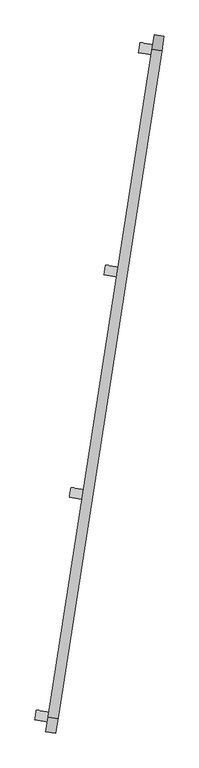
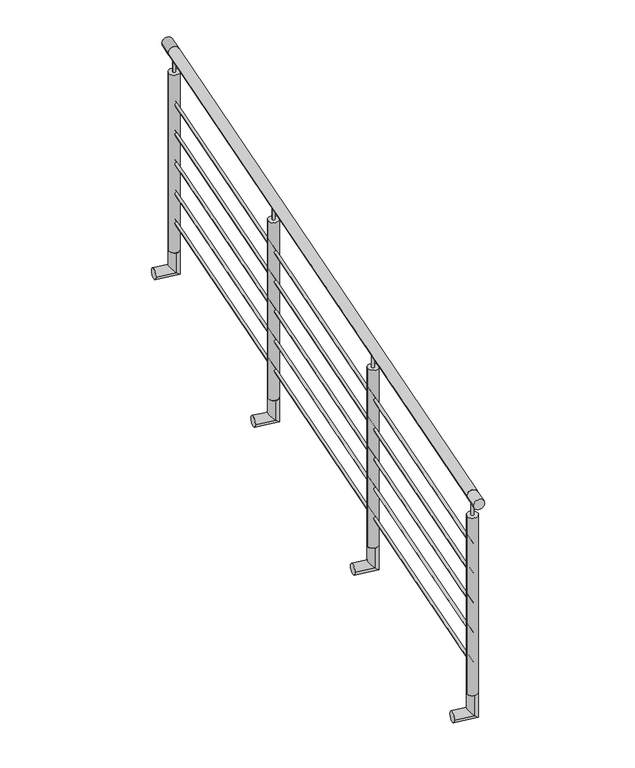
"""IFC4 building model written with IfcOpenShell, lengths in millimetres: railing geometry, Barandal acero inox - sobre ventana."""

from ifc_helpers import new_model, si_unit, point, frame, frame_2d, origin, origin_2d, place, context, project, spatial, circle_curve, ellipse_curve, trimmed, segment, composite_curve, outline, extrude, source, transform, mapped, element, save
from ifc_brep_helpers import plane_surface, cylinder_surface, advanced_brep


def railing_1e4c7c1b(model_context):
    return source(origin(), model_context, "Body", "SolidModel", [
        extrude(outline(composite_curve([segment(trimmed(circle_curve(origin_2d(), 25.4), [point((25.4, 0.0))], [point((-25.4, 0.0))], False, "CARTESIAN"), True, "CONTINUOUS"), segment(trimmed(circle_curve(origin_2d(), 25.4), [point((-25.4, 0.0))], [point((25.4, 0.0))], False, "CARTESIAN"), True, "CONTINUOUS")], self_intersect=False)), frame((-22264.2463369, -63614.1866839, 7400.0), z_axis=(0.15400987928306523, 0.9880693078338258, 0.0), x_axis=(0.9880693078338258, -0.15400987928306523, 0.0)), (0.0, 0.0, 1.0), 3430.0),
        extrude(outline(composite_curve([segment(trimmed(circle_curve(origin_2d(), 6.35), [point((6.35, 0.0))], [point((-6.35, 0.0))], False, "CARTESIAN"), True, "CONTINUOUS"), segment(trimmed(circle_curve(origin_2d(), 6.35), [point((-6.35, 0.0))], [point((6.35, 0.0))], False, "CARTESIAN"), True, "CONTINUOUS")], self_intersect=False)), frame((-22264.2463369, -63614.1866839, 7150.0), z_axis=(0.15400987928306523, 0.9880693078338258, 0.0), x_axis=(0.9880693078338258, -0.15400987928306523, 0.0)), (0.0, 0.0, 1.0), 3430.0),
        extrude(outline(composite_curve([segment(trimmed(circle_curve(origin_2d(), 6.35), [point((6.35, 0.0))], [point((-6.35, 0.0))], False, "CARTESIAN"), True, "CONTINUOUS"), segment(trimmed(circle_curve(origin_2d(), 6.35), [point((-6.35, 0.0))], [point((6.35, 0.0))], False, "CARTESIAN"), True, "CONTINUOUS")], self_intersect=False)), frame((-22264.2463369, -63614.1866839, 7000.0), z_axis=(0.15400987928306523, 0.9880693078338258, 0.0), x_axis=(0.9880693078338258, -0.15400987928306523, 0.0)), (0.0, 0.0, 1.0), 3430.0),
        extrude(outline(composite_curve([segment(trimmed(circle_curve(origin_2d(), 6.35), [point((6.35, 0.0))], [point((-6.35, 0.0))], False, "CARTESIAN"), True, "CONTINUOUS"), segment(trimmed(circle_curve(origin_2d(), 6.35), [point((-6.35, 0.0))], [point((6.35, 0.0))], False, "CARTESIAN"), True, "CONTINUOUS")], self_intersect=False)), frame((-22264.2463369, -63614.1866839, 6850.0), z_axis=(0.15400987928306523, 0.9880693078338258, 0.0), x_axis=(0.9880693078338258, -0.15400987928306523, 0.0)), (0.0, 0.0, 1.0), 3430.0),
        extrude(outline(composite_curve([segment(trimmed(circle_curve(origin_2d(), 6.35), [point((6.35, 0.0))], [point((-6.35, 0.0))], False, "CARTESIAN"), True, "CONTINUOUS"), segment(trimmed(circle_curve(origin_2d(), 6.35), [point((-6.35, 0.0))], [point((6.35, 0.0))], False, "CARTESIAN"), True, "CONTINUOUS")], self_intersect=False)), frame((-22264.2463369, -63614.1866839, 6700.0), z_axis=(0.15400987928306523, 0.9880693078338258, 0.0), x_axis=(0.9880693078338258, -0.15400987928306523, 0.0)), (0.0, 0.0, 1.0), 3430.0),
        extrude(outline(composite_curve([segment(trimmed(circle_curve(origin_2d(), 6.35), [point((6.35, 0.0))], [point((-6.35, 0.0))], False, "CARTESIAN"), True, "CONTINUOUS"), segment(trimmed(circle_curve(origin_2d(), 6.35), [point((-6.35, 0.0))], [point((6.35, 0.0))], False, "CARTESIAN"), True, "CONTINUOUS")], self_intersect=False)), frame((-22264.2463369, -63614.1866839, 6550.0), z_axis=(0.15400987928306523, 0.9880693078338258, 0.0), x_axis=(0.9880693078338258, -0.15400987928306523, 0.0)), (0.0, 0.0, 1.0), 3430.0),
        advanced_brep(
        [(-21915.9889305, -61379.8984937, 6400.0), (-21908.1652287, -61329.7045729, 6400.0), (-21908.1652287, -61329.7045729, 6300.0), (-21915.9889305, -61379.8984937, 6300.0), (-22004.9151682, -61366.0376046, 6300.0), (-21997.0914664, -61315.8436837, 6300.0)],
        [
            (0, 1, circle_curve(frame((-21912.0770796, -61354.8015333, 6400.0), z_axis=(0.0, 0.0, 1.0), x_axis=(0.15400987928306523, 0.9880693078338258, 0.0)), 25.4)),
            (1, 0, circle_curve(frame((-21912.0770796, -61354.8015333, 6400.0), z_axis=(0.0, 0.0, 1.0), x_axis=(0.15400987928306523, 0.9880693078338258, 0.0)), 25.4)),
            (1, 2),
            (2, 3, ellipse_curve(frame((-21912.0770796, -61354.8015333, 6300.0), z_axis=(0.6986705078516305, -0.10890143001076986, 0.7071067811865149), x_axis=(-0.6986705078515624, 0.1089014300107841, 0.7071067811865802)), 35.9210245, 25.4)),
            (3, 0),
            (3, 2, ellipse_curve(frame((-21912.0770796, -61354.8015333, 6300.0), z_axis=(0.6986705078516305, -0.10890143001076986, 0.7071067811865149), x_axis=(-0.6986705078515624, 0.1089014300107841, 0.7071067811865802)), 35.9210245, 25.4)),
            (4, 5, circle_curve(frame((-22001.0033173, -61340.9406442, 6300.0), z_axis=(-0.9880693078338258, 0.15400987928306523, 0.0), x_axis=(0.15400987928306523, 0.9880693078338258, 0.0)), 25.4)),
            (5, 4, circle_curve(frame((-22001.0033173, -61340.9406442, 6300.0), z_axis=(-0.9880693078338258, 0.15400987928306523, 0.0), x_axis=(0.15400987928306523, 0.9880693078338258, 0.0)), 25.4)),
            (2, 5),
            (4, 3),
        ],
        [
            plane_surface(frame((-21912.0770796, -61354.8015333, 6400.0), z_axis=(0.0, 0.0, 1.0), x_axis=(0.15400987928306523, 0.9880693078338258, 0.0))),
            cylinder_surface(frame((-21912.0770796, -61354.8015333, 6400.0), z_axis=(0.0, 0.0, 1.0), x_axis=(0.15400987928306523, 0.9880693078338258, 0.0)), 25.4),
            plane_surface(frame((-22001.0033173, -61340.9406442, 6300.0), z_axis=(-0.9880693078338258, 0.15400987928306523, 0.0), x_axis=(0.15400987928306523, 0.9880693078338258, 0.0))),
            cylinder_surface(frame((-21912.0770796, -61354.8015333, 6300.0), z_axis=(0.9880693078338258, -0.15400987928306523, 0.0), x_axis=(0.15400987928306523, 0.9880693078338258, 0.0)), 25.4),
        ],
        [
            (0, [[1, 2]]),
            (1, [[3, 4, 5, -2]]),
            (1, [[-5, 6, -3, -1]]),
            (2, [[7, 8]]),
            (3, [[9, -7, 10, -4]]),
            (3, [[-10, -8, -9, -6]]),
        ],
    ),
        extrude(outline(composite_curve([segment(trimmed(circle_curve(frame_2d((-21912.0770796, -61354.8015333)), 6.35), [point((-21918.3513197, -61353.8235706))], [point((-21905.8028395, -61355.779496))], False, "CARTESIAN"), True, "CONTINUOUS"), segment(trimmed(circle_curve(frame_2d((-21912.0770796, -61354.8015333)), 6.35), [point((-21905.8028395, -61355.779496))], [point((-21918.3513197, -61353.8235706))], False, "CARTESIAN"), True, "CONTINUOUS")], self_intersect=False)), frame((0.0, 0.0, 7299.6), z_axis=(0.0, 0.0, 1.0), x_axis=(1.0, 0.0, 0.0)), (0.0, 0.0, 1.0), 75.0),
        extrude(outline(composite_curve([segment(trimmed(circle_curve(frame_2d((-21912.0770796, -61354.8015333)), 25.4), [point((-21937.17404, -61350.8896824))], [point((-21886.9801192, -61358.7133842))], False, "CARTESIAN"), True, "CONTINUOUS"), segment(trimmed(circle_curve(frame_2d((-21912.0770796, -61354.8015333)), 25.4), [point((-21886.9801192, -61358.7133842))], [point((-21937.17404, -61350.8896824))], False, "CARTESIAN"), True, "CONTINUOUS")], self_intersect=False)), frame((0.0, 0.0, 6400.0), z_axis=(0.0, 0.0, 1.0), x_axis=(1.0, 0.0, 0.0)), (0.0, 0.0, 1.0), 899.6),
        advanced_brep(
        [(-22092.0735592, -62509.591069, 6400.0), (-22084.2498573, -62459.3971482, 6400.0), (-22084.2498573, -62459.3971482, 6300.0), (-22092.0735592, -62509.591069, 6300.0), (-22180.9997969, -62495.7301799, 6300.0), (-22173.176095, -62445.536259, 6300.0)],
        [
            (0, 1, circle_curve(frame((-22088.1617082, -62484.4941086, 6400.0), z_axis=(0.0, 0.0, 1.0), x_axis=(0.15400987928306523, 0.9880693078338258, 0.0)), 25.4)),
            (1, 0, circle_curve(frame((-22088.1617082, -62484.4941086, 6400.0), z_axis=(0.0, 0.0, 1.0), x_axis=(0.15400987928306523, 0.9880693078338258, 0.0)), 25.4)),
            (1, 2),
            (2, 3, ellipse_curve(frame((-22088.1617082, -62484.4941086, 6300.0), z_axis=(0.6986705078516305, -0.10890143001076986, 0.7071067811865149), x_axis=(-0.6986705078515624, 0.1089014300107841, 0.7071067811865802)), 35.9210245, 25.4)),
            (3, 0),
            (3, 2, ellipse_curve(frame((-22088.1617082, -62484.4941086, 6300.0), z_axis=(0.6986705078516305, -0.10890143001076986, 0.7071067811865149), x_axis=(-0.6986705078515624, 0.1089014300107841, 0.7071067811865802)), 35.9210245, 25.4)),
            (4, 5, circle_curve(frame((-22177.087946, -62470.6332195, 6300.0), z_axis=(-0.9880693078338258, 0.15400987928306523, 0.0), x_axis=(0.15400987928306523, 0.9880693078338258, 0.0)), 25.4)),
            (5, 4, circle_curve(frame((-22177.087946, -62470.6332195, 6300.0), z_axis=(-0.9880693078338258, 0.15400987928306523, 0.0), x_axis=(0.15400987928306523, 0.9880693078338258, 0.0)), 25.4)),
            (2, 5),
            (4, 3),
        ],
        [
            plane_surface(frame((-22088.1617082, -62484.4941086, 6400.0), z_axis=(0.0, 0.0, 1.0), x_axis=(0.15400987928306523, 0.9880693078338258, 0.0))),
            cylinder_surface(frame((-22088.1617082, -62484.4941086, 6400.0), z_axis=(0.0, 0.0, 1.0), x_axis=(0.15400987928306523, 0.9880693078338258, 0.0)), 25.4),
            plane_surface(frame((-22177.087946, -62470.6332195, 6300.0), z_axis=(-0.9880693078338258, 0.15400987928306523, 0.0), x_axis=(0.15400987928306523, 0.9880693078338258, 0.0))),
            cylinder_surface(frame((-22088.1617082, -62484.4941086, 6300.0), z_axis=(0.9880693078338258, -0.15400987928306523, 0.0), x_axis=(0.15400987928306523, 0.9880693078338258, 0.0)), 25.4),
        ],
        [
            (0, [[1, 2]]),
            (1, [[3, 4, 5, -2]]),
            (1, [[-5, 6, -3, -1]]),
            (2, [[7, 8]]),
            (3, [[9, -7, 10, -4]]),
            (3, [[-10, -8, -9, -6]]),
        ],
    ),
        extrude(outline(composite_curve([segment(trimmed(circle_curve(frame_2d((-22088.1617082, -62484.4941086)), 6.35), [point((-22094.4359484, -62483.5161459))], [point((-22081.8874681, -62485.4720713))], False, "CARTESIAN"), True, "CONTINUOUS"), segment(trimmed(circle_curve(frame_2d((-22088.1617082, -62484.4941086)), 6.35), [point((-22081.8874681, -62485.4720713))], [point((-22094.4359484, -62483.5161459))], False, "CARTESIAN"), True, "CONTINUOUS")], self_intersect=False)), frame((0.0, 0.0, 7299.6), z_axis=(0.0, 0.0, 1.0), x_axis=(1.0, 0.0, 0.0)), (0.0, 0.0, 1.0), 75.0),
        extrude(outline(composite_curve([segment(trimmed(circle_curve(frame_2d((-22088.1617082, -62484.4941086)), 25.4), [point((-22113.2586687, -62480.5822577))], [point((-22063.0647478, -62488.4059595))], False, "CARTESIAN"), True, "CONTINUOUS"), segment(trimmed(circle_curve(frame_2d((-22088.1617082, -62484.4941086)), 25.4), [point((-22063.0647478, -62488.4059595))], [point((-22113.2586687, -62480.5822577))], False, "CARTESIAN"), True, "CONTINUOUS")], self_intersect=False)), frame((0.0, 0.0, 6400.0), z_axis=(0.0, 0.0, 1.0), x_axis=(1.0, 0.0, 0.0)), (0.0, 0.0, 1.0), 899.6),
        advanced_brep(
        [(-21739.9043019, -60250.2059184, 6400.0), (-21732.0806, -60200.0119976, 6400.0), (-21732.0806, -60200.0119976, 6300.0), (-21739.9043019, -60250.2059184, 6300.0), (-21828.8305396, -60236.3450293, 6300.0), (-21821.0068377, -60186.1511085, 6300.0)],
        [
            (0, 1, circle_curve(frame((-21735.992451, -60225.108958, 6400.0), z_axis=(0.0, 0.0, 1.0), x_axis=(0.15400987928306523, 0.9880693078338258, 0.0)), 25.4)),
            (1, 0, circle_curve(frame((-21735.992451, -60225.108958, 6400.0), z_axis=(0.0, 0.0, 1.0), x_axis=(0.15400987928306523, 0.9880693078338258, 0.0)), 25.4)),
            (1, 2),
            (2, 3, ellipse_curve(frame((-21735.992451, -60225.108958, 6300.0), z_axis=(0.6986705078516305, -0.10890143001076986, 0.7071067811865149), x_axis=(-0.6986705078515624, 0.1089014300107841, 0.7071067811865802)), 35.9210245, 25.4)),
            (3, 0),
            (3, 2, ellipse_curve(frame((-21735.992451, -60225.108958, 6300.0), z_axis=(0.6986705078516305, -0.10890143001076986, 0.7071067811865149), x_axis=(-0.6986705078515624, 0.1089014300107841, 0.7071067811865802)), 35.9210245, 25.4)),
            (4, 5, circle_curve(frame((-21824.9186887, -60211.2480689, 6300.0), z_axis=(-0.9880693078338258, 0.15400987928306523, 0.0), x_axis=(0.15400987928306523, 0.9880693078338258, 0.0)), 25.4)),
            (5, 4, circle_curve(frame((-21824.9186887, -60211.2480689, 6300.0), z_axis=(-0.9880693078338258, 0.15400987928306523, 0.0), x_axis=(0.15400987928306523, 0.9880693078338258, 0.0)), 25.4)),
            (2, 5),
            (4, 3),
        ],
        [
            plane_surface(frame((-21735.992451, -60225.108958, 6400.0), z_axis=(0.0, 0.0, 1.0), x_axis=(0.15400987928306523, 0.9880693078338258, 0.0))),
            cylinder_surface(frame((-21735.992451, -60225.108958, 6400.0), z_axis=(0.0, 0.0, 1.0), x_axis=(0.15400987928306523, 0.9880693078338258, 0.0)), 25.4),
            plane_surface(frame((-21824.9186887, -60211.2480689, 6300.0), z_axis=(-0.9880693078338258, 0.15400987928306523, 0.0), x_axis=(0.15400987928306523, 0.9880693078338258, 0.0))),
            cylinder_surface(frame((-21735.992451, -60225.108958, 6300.0), z_axis=(0.9880693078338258, -0.15400987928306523, 0.0), x_axis=(0.15400987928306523, 0.9880693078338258, 0.0)), 25.4),
        ],
        [
            (0, [[1, 2]]),
            (1, [[3, 4, 5, -2]]),
            (1, [[-5, 6, -3, -1]]),
            (2, [[7, 8]]),
            (3, [[9, -7, 10, -4]]),
            (3, [[-10, -8, -9, -6]]),
        ],
    ),
        extrude(outline(composite_curve([segment(trimmed(circle_curve(frame_2d((0.0, 25.4000001)), 25.4), [point((0.0, 50.8000001))], [point((0.0, 0.0))], False, "CARTESIAN"), True, "CONTINUOUS"), segment(trimmed(circle_curve(frame_2d((0.0, 25.4000001)), 25.4), [point((0.0, 0.0))], [point((0.0, 50.8000001))], False, "CARTESIAN"), True, "CONTINUOUS")], self_intersect=False)), frame((-21710.8954905, -60229.0208089, 7400.0), z_axis=(0.15400987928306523, 0.9880693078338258, 0.0), x_axis=(0.0, 0.0, -1.0)), (0.0, 0.0, 1.0), 75.0),
        extrude(outline(composite_curve([segment(trimmed(circle_curve(frame_2d((-21735.992451, -60225.108958)), 6.35), [point((-21742.2666911, -60224.1309953))], [point((-21729.7182108, -60226.0869207))], False, "CARTESIAN"), True, "CONTINUOUS"), segment(trimmed(circle_curve(frame_2d((-21735.992451, -60225.108958)), 6.35), [point((-21729.7182108, -60226.0869207))], [point((-21742.2666911, -60224.1309953))], False, "CARTESIAN"), True, "CONTINUOUS")], self_intersect=False)), frame((0.0, 0.0, 7299.6), z_axis=(0.0, 0.0, 1.0), x_axis=(1.0, 0.0, 0.0)), (0.0, 0.0, 1.0), 75.0),
        extrude(outline(composite_curve([segment(trimmed(circle_curve(frame_2d((-21735.992451, -60225.108958)), 25.4), [point((-21761.0894114, -60221.1971071))], [point((-21710.8954905, -60229.0208089))], False, "CARTESIAN"), True, "CONTINUOUS"), segment(trimmed(circle_curve(frame_2d((-21735.992451, -60225.108958)), 25.4), [point((-21710.8954905, -60229.0208089))], [point((-21761.0894114, -60221.1971071))], False, "CARTESIAN"), True, "CONTINUOUS")], self_intersect=False)), frame((0.0, 0.0, 6400.0), z_axis=(0.0, 0.0, 1.0), x_axis=(1.0, 0.0, 0.0)), (0.0, 0.0, 1.0), 899.6),
        advanced_brep(
        [(-22268.1581878, -63639.2836443, 6400.0), (-22260.334486, -63589.0897235, 6400.0), (-22260.334486, -63589.0897235, 6300.0), (-22268.1581878, -63639.2836443, 6300.0), (-22357.0844255, -63625.4227552, 6300.0), (-22349.2607237, -63575.2288343, 6300.0)],
        [
            (0, 1, circle_curve(frame((-22264.2463369, -63614.1866839, 6400.0), z_axis=(0.0, 0.0, 1.0), x_axis=(0.15400987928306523, 0.9880693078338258, 0.0)), 25.4)),
            (1, 0, circle_curve(frame((-22264.2463369, -63614.1866839, 6400.0), z_axis=(0.0, 0.0, 1.0), x_axis=(0.15400987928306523, 0.9880693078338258, 0.0)), 25.4)),
            (1, 2),
            (2, 3, ellipse_curve(frame((-22264.2463369, -63614.1866839, 6300.0), z_axis=(0.6986705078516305, -0.10890143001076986, 0.7071067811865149), x_axis=(-0.6986705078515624, 0.1089014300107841, 0.7071067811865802)), 35.9210245, 25.4)),
            (3, 0),
            (3, 2, ellipse_curve(frame((-22264.2463369, -63614.1866839, 6300.0), z_axis=(0.6986705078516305, -0.10890143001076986, 0.7071067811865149), x_axis=(-0.6986705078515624, 0.1089014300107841, 0.7071067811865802)), 35.9210245, 25.4)),
            (4, 5, circle_curve(frame((-22353.1725746, -63600.3257947, 6300.0), z_axis=(-0.9880693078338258, 0.15400987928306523, 0.0), x_axis=(0.15400987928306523, 0.9880693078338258, 0.0)), 25.4)),
            (5, 4, circle_curve(frame((-22353.1725746, -63600.3257947, 6300.0), z_axis=(-0.9880693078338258, 0.15400987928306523, 0.0), x_axis=(0.15400987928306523, 0.9880693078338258, 0.0)), 25.4)),
            (2, 5),
            (4, 3),
        ],
        [
            plane_surface(frame((-22264.2463369, -63614.1866839, 6400.0), z_axis=(0.0, 0.0, 1.0), x_axis=(0.15400987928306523, 0.9880693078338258, 0.0))),
            cylinder_surface(frame((-22264.2463369, -63614.1866839, 6400.0), z_axis=(0.0, 0.0, 1.0), x_axis=(0.15400987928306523, 0.9880693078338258, 0.0)), 25.4),
            plane_surface(frame((-22353.1725746, -63600.3257947, 6300.0), z_axis=(-0.9880693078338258, 0.15400987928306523, 0.0), x_axis=(0.15400987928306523, 0.9880693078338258, 0.0))),
            cylinder_surface(frame((-22264.2463369, -63614.1866839, 6300.0), z_axis=(0.9880693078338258, -0.15400987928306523, 0.0), x_axis=(0.15400987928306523, 0.9880693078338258, 0.0)), 25.4),
        ],
        [
            (0, [[1, 2]]),
            (1, [[3, 4, 5, -2]]),
            (1, [[-5, 6, -3, -1]]),
            (2, [[7, 8]]),
            (3, [[9, -7, 10, -4]]),
            (3, [[-10, -8, -9, -6]]),
        ],
    ),
        extrude(outline(composite_curve([segment(trimmed(circle_curve(frame_2d((0.0, 25.4)), 25.4), [point((0.0, 50.8000001))], [point((0.0, 0.0))], False, "CARTESIAN"), True, "CONTINUOUS"), segment(trimmed(circle_curve(frame_2d((0.0, 25.4)), 25.4), [point((0.0, 0.0))], [point((0.0, 50.8000001))], False, "CARTESIAN"), True, "CONTINUOUS")], self_intersect=False)), frame((-22250.7001174, -63692.2037329, 7400.0), z_axis=(0.15400987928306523, 0.9880693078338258, 0.0), x_axis=(0.0, 0.0, -1.0)), (0.0, 0.0, 1.0), 75.0),
        extrude(outline(composite_curve([segment(trimmed(circle_curve(frame_2d((-22264.2463369, -63614.1866839)), 6.35), [point((-22270.520577, -63613.2087211))], [point((-22257.9720968, -63615.1646466))], False, "CARTESIAN"), True, "CONTINUOUS"), segment(trimmed(circle_curve(frame_2d((-22264.2463369, -63614.1866839)), 6.35), [point((-22257.9720968, -63615.1646466))], [point((-22270.520577, -63613.2087211))], False, "CARTESIAN"), True, "CONTINUOUS")], self_intersect=False)), frame((0.0, 0.0, 7299.6), z_axis=(0.0, 0.0, 1.0), x_axis=(1.0, 0.0, 0.0)), (0.0, 0.0, 1.0), 75.0),
        extrude(outline(composite_curve([segment(trimmed(circle_curve(frame_2d((-22264.2463369, -63614.1866839)), 25.4), [point((-22289.3432973, -63610.2748329))], [point((-22239.1493765, -63618.0985348))], False, "CARTESIAN"), True, "CONTINUOUS"), segment(trimmed(circle_curve(frame_2d((-22264.2463369, -63614.1866839)), 25.4), [point((-22239.1493765, -63618.0985348))], [point((-22289.3432973, -63610.2748329))], False, "CARTESIAN"), True, "CONTINUOUS")], self_intersect=False)), frame((0.0, 0.0, 6400.0), z_axis=(0.0, 0.0, 1.0), x_axis=(1.0, 0.0, 0.0)), (0.0, 0.0, 1.0), 899.6),
    ])


if __name__ == "__main__":
    model = new_model("IFC4")
    model_context = context("Model", 3, world=origin())
    ifc_project = project(units=[si_unit("LENGTHUNIT", "METRE", prefix="MILLI")], contexts=[model_context])
    site = spatial("IfcSite", under=ifc_project)
    building = spatial("IfcBuilding", under=site)
    placement = place(None, origin())
    railing_shape = railing_1e4c7c1b(model_context)
    element("IfcRailing", 1, ObjectType="Barandal acero inox - sobre ventana", at=placement, inside=building, context=model_context, shape_type="MappedRepresentation", body=[
        mapped(railing_shape, transform((0.0, 0.0, 0.0), x_axis=(1.0, 0.0, 0.0), y_axis=(0.0, 1.0, 0.0), z_axis=(0.0, 0.0, 1.0))),
    ])
    save(model, "model.ifc")
